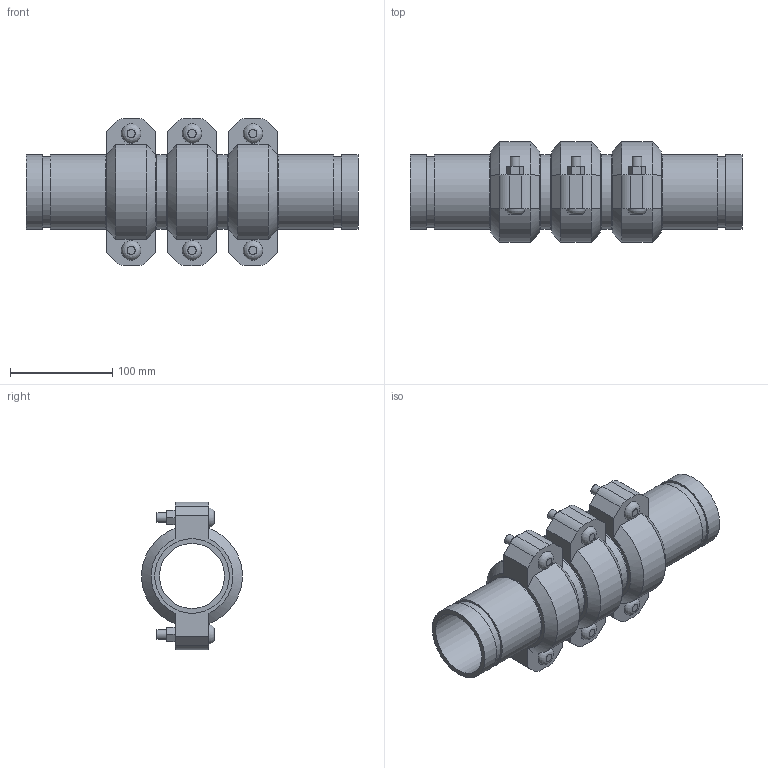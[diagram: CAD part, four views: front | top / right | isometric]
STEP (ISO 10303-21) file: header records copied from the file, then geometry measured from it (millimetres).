
FILE_DESCRIPTION(/* description */ ('VIC SS EXPANSION JOINT 3 COUPLINGS NEUTRAL STYLE 155P (OGS) (POTABLE WATER) ','CAx-IF Rec.Pracs.---Representation and Presentation of Product Manufacturing Information (PMI)---4.0---2014-10-13'),/* implementation_level */ '2;1');
FILE_NAME(/* name */ 'C:\Users\kkamble\AppData\Roaming\Autodesk\ApplicationPlugins\Victaulic.Temp\A227\Victaulic_SS_Expansion Joint_Neutral_3 Couplings_Style 155P (OGS)-Potable Water_3 Coup_Neut_2.5 (65).stp',/* time_stamp */ '2021-07-16T16:32:10+05:00',/* author */ ('kkamble'),/* organization */ ('Victaulic'),/* preprocessor_version */ 'ST-DEVELOPER v17.2',/* originating_system */ 'Autodesk Inventor 2019',/* authorisation */ '');
FILE_SCHEMA (('AP242_MANAGED_MODEL_BASED_3D_ENGINEERING_MIM_LF { 1 0 10303 442 1 1 4 }'));
Length unit declared in the file: inch
Products named in the file (4): 155P-02.5; Nipple-02.5; Nipple-02.5_1; 075-02.5
Assembly tree (7 placements, depth 2):
  155P-02.5
    Nipple-02.5  x2
    Nipple-02.5_1  x2
    075-02.5  x3
Bounding box: 324.61 x 98.22 x 144.27 mm (x, y, z)
Volume: 943948.7 mm3; surface area: 282669.1 mm2
Topology: 7 solids, 13 shells, 219 faces, 519 edges, 366 vertices
Faces by surface type: plane 132, cylinder 69, cone 12, bspline 6
Full cylindrical faces by diameter (mm): 9.525 x12, 11.43 x6, 63.475 x4, 66.675 x3, 69.088 x8, 73.025 x18
Entity records: 2769 total; most frequent: CARTESIAN_POINT 491, DIRECTION 457, ORIENTED_EDGE 386, EDGE_CURVE 193, AXIS2_PLACEMENT_3D 182, VERTEX_POINT 138, EDGE_LOOP 107, LINE 93
